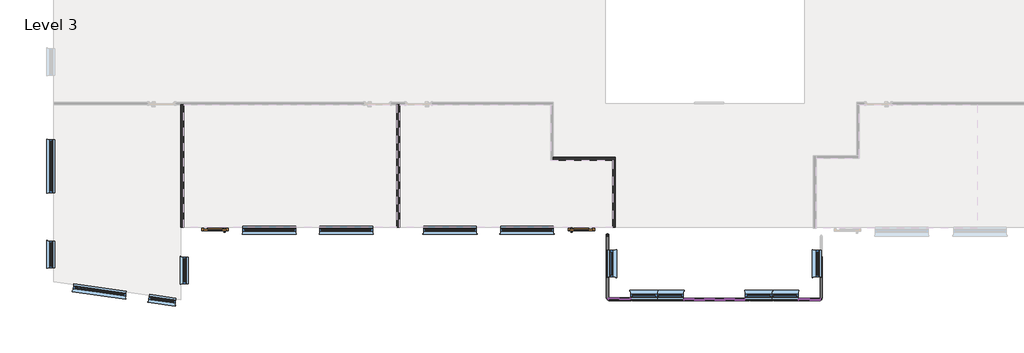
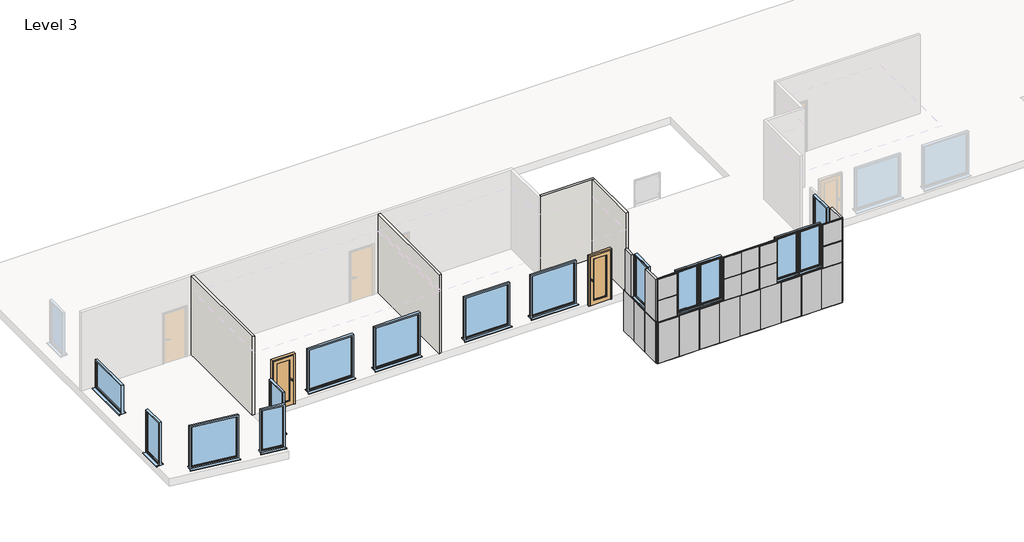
# One storey, part 1 of 7: 73 members, 27 plates, 15 windows, 4 walls, 2 doors.
"""IFC4 building model written with IfcOpenShell, lengths in millimetres."""

from ifc_helpers import new_model, si_unit, frame, origin, place, context, project, spatial, polyline, outline, extrude, faceted_brep, transform, mapped, element, save
from components import doors_extsgl_1_910x2110mm_628282a2, doors_extsgl_1_910x2110mm_947c59ca, rectangular_mullion_25x25mm_b2cedffe, rectangular_mullion_25x25mm_028a5a57, rectangular_mullion_25x25mm_46c97505, rectangular_mullion_25x25mm_a4c1269f, rectangular_mullion_25x25mm_003a9669, rectangular_mullion_25x25mm_920d8240, rectangular_mullion_25x25mm_6d395d07, rectangular_mullion_25x25mm_ba48c8dc, rectangular_mullion_25x25mm_5747d3e9, rectangular_mullion_25x25mm_b4b9a9ee, rectangular_mullion_25x25mm_675738ca, rectangular_mullion_25x25mm_1daffa3c, rectangular_mullion_25x25mm_6c57a8fc, rectangular_mullion_25x25mm_2d4ba261, rectangular_mullion_25x25mm_25b33903, rectangular_mullion_25x25mm_7f393c03, rectangular_mullion_25x25mm_c7fa3d61, rectangular_mullion_25x25mm_14c15364, rectangular_mullion_25x25mm_8c50469f, rectangular_mullion_25x25mm_822b7fe3, rectangular_mullion_25x25mm_ea8cc668, rectangular_mullion_25x25mm_576a80d7, curtain_panels_solid_solid_panel_green_c59e5148, curtain_panels_solid_solid_panel_green_b8c23153, curtain_panels_solid_solid_panel_green_16f00973, curtain_panels_solid_solid_panel_green_723635d2, curtain_panels_solid_solid_panel_green_db50b24e, curtain_panels_solid_solid_panel_green_6b347029, curtain_panels_solid_solid_panel_green_873f3444, curtain_panels_solid_solid_panel_green_c27fb083, curtain_panels_solid_solid_panel_green_d5b4ba83, curtain_panels_solid_solid_panel_green_fcc19b96, windows_sgl_plain_1810x1210mm_bf86ad2f, windows_sgl_plain_1810x1810mm_5434ce38, windows_sgl_plain_1810x1810mm_11d9b991, windows_sgl_plain_910x1810mm_bd75558e, windows_sgl_plain_910x1810mm_de3ea6c8, windows_sgl_plain_910x1810mm_eaa5caaf, windows_sgl_plain_910x1810mm_c05862ca

model = new_model("IFC4")

# Units and contexts
model_context = context("Model", 3, world=origin())
ifc_project = project(units=[si_unit("LENGTHUNIT", "METRE", prefix="MILLI")], contexts=[model_context])

# Site, building, storey
site = spatial("IfcSite", under=ifc_project)
building = spatial("IfcBuilding", under=site)
storey = spatial("IfcBuildingStorey", under=building, Name="Level 3", Elevation=11000.0)

# Doors
placement = place(None, origin())
doors_extsgl_1_910x2110mm_shape = doors_extsgl_1_910x2110mm_628282a2(model_context)
element("IfcDoor", 1, ObjectType="Doors_ExtSgl_1 : 910x2110mm", at=placement, inside=storey, context=model_context, shape_type="MappedRepresentation", body=[
    mapped(doors_extsgl_1_910x2110mm_shape, transform((4105.7942367, -3367.5053409, 11000.0), x_axis=(-1.0, 0.0, 0.0), y_axis=(0.0, -1.0, 0.0), z_axis=(0.0, 0.0, 1.0))),
])
doors_extsgl_1_910x2110mm_2_shape = doors_extsgl_1_910x2110mm_947c59ca(model_context)
element("IfcDoor", 2, ObjectType="Doors_ExtSgl_1 : 910x2110mm", at=placement, inside=storey, context=model_context, shape_type="MappedRepresentation", body=[
    mapped(doors_extsgl_1_910x2110mm_2_shape, transform((16660.7942367, -3367.5053409, 11000.0), x_axis=(1.0, 0.0, 0.0), y_axis=(0.0, 1.0, 0.0), z_axis=(0.0, 0.0, 1.0))),
])

# Members
rectangular_mullion_25x25mm_shape = rectangular_mullion_25x25mm_b2cedffe(model_context)
element("IfcMember", 3, ObjectType="Rectangular Mullion : 25x25mm", at=placement, inside=storey, context=model_context, shape_type="MappedRepresentation", body=[
    mapped(rectangular_mullion_25x25mm_shape, transform((24873.2942367, -4250.005341, 9585.0), x_axis=(0.0, -1.0, 0.0), y_axis=(-1.0, 0.0, 0.0), z_axis=(0.0, 0.0, -1.0))),
])
element("IfcMember", 4, ObjectType="Rectangular Mullion : 25x25mm", at=placement, inside=storey, context=model_context, shape_type="MappedRepresentation", body=[
    mapped(rectangular_mullion_25x25mm_shape, transform((24873.2942367, -4977.5053408, 9585.0), x_axis=(0.0, -1.0, 0.0), y_axis=(-1.0, 0.0, 0.0), z_axis=(0.0, 0.0, -1.0))),
])
element("IfcMember", 5, ObjectType="Rectangular Mullion : 25x25mm", at=placement, inside=storey, context=model_context, shape_type="MappedRepresentation", body=[
    mapped(rectangular_mullion_25x25mm_shape, transform((24052.4609031, -5717.5053409, 9585.0), x_axis=(-1.0, 0.0, 0.0), y_axis=(0.0, 1.0, 0.0), z_axis=(0.0, 0.0, -1.0))),
])
element("IfcMember", 6, ObjectType="Rectangular Mullion : 25x25mm", at=placement, inside=storey, context=model_context, shape_type="MappedRepresentation", body=[
    mapped(rectangular_mullion_25x25mm_shape, transform((23244.1275698, -5717.5053409, 9585.0), x_axis=(-1.0, 0.0, 0.0), y_axis=(0.0, 1.0, 0.0), z_axis=(0.0, 0.0, -1.0))),
])
element("IfcMember", 7, ObjectType="Rectangular Mullion : 25x25mm", at=placement, inside=storey, context=model_context, shape_type="MappedRepresentation", body=[
    mapped(rectangular_mullion_25x25mm_shape, transform((22435.7942366, -5717.5053409, 9585.0), x_axis=(-1.0, 0.0, 0.0), y_axis=(0.0, 1.0, 0.0), z_axis=(0.0, 0.0, -1.0))),
])
element("IfcMember", 8, ObjectType="Rectangular Mullion : 25x25mm", at=placement, inside=storey, context=model_context, shape_type="MappedRepresentation", body=[
    mapped(rectangular_mullion_25x25mm_shape, transform((21627.4609033, -5717.5053409, 9585.0), x_axis=(-1.0, 0.0, 0.0), y_axis=(0.0, 1.0, 0.0), z_axis=(0.0, 0.0, -1.0))),
])
element("IfcMember", 9, ObjectType="Rectangular Mullion : 25x25mm", at=placement, inside=storey, context=model_context, shape_type="MappedRepresentation", body=[
    mapped(rectangular_mullion_25x25mm_shape, transform((20819.12757, -5717.5053409, 9585.0), x_axis=(-1.0, 0.0, 0.0), y_axis=(0.0, 1.0, 0.0), z_axis=(0.0, 0.0, -1.0))),
])
element("IfcMember", 10, ObjectType="Rectangular Mullion : 25x25mm", at=placement, inside=storey, context=model_context, shape_type="MappedRepresentation", body=[
    mapped(rectangular_mullion_25x25mm_shape, transform((20010.7942368, -5717.5053409, 9585.0), x_axis=(-1.0, 0.0, 0.0), y_axis=(0.0, 1.0, 0.0), z_axis=(0.0, 0.0, -1.0))),
])
element("IfcMember", 11, ObjectType="Rectangular Mullion : 25x25mm", at=placement, inside=storey, context=model_context, shape_type="MappedRepresentation", body=[
    mapped(rectangular_mullion_25x25mm_shape, transform((19202.4609035, -5717.5053409, 9585.0), x_axis=(-1.0, 0.0, 0.0), y_axis=(0.0, 1.0, 0.0), z_axis=(0.0, 0.0, -1.0))),
])
element("IfcMember", 12, ObjectType="Rectangular Mullion : 25x25mm", at=placement, inside=storey, context=model_context, shape_type="MappedRepresentation", body=[
    mapped(rectangular_mullion_25x25mm_shape, transform((18394.1275702, -5717.5053409, 9585.0), x_axis=(-1.0, 0.0, 0.0), y_axis=(0.0, 1.0, 0.0), z_axis=(0.0, 0.0, -1.0))),
])
rectangular_mullion_25x25mm_2_shape = rectangular_mullion_25x25mm_028a5a57(model_context)
element("IfcMember", 13, ObjectType="Rectangular Mullion : 25x25mm", at=placement, inside=storey, context=model_context, shape_type="MappedRepresentation", body=[
    mapped(rectangular_mullion_25x25mm_2_shape, transform((24873.2942367, -5717.5053409, 9585.0), x_axis=(0.0, -1.0, 0.0), y_axis=(-1.0, 0.0, 0.0), z_axis=(0.0, 0.0, -1.0))),
])
element("IfcMember", 14, ObjectType="Rectangular Mullion : 25x25mm", at=placement, inside=storey, context=model_context, shape_type="MappedRepresentation", body=[
    mapped(rectangular_mullion_25x25mm_2_shape, transform((17573.2942367, -5717.5053409, 9585.0), x_axis=(-1.0, 0.0, 0.0), y_axis=(0.0, 1.0, 0.0), z_axis=(0.0, 0.0, -1.0))),
])
element("IfcMember", 15, ObjectType="Rectangular Mullion : 25x25mm", at=placement, inside=storey, context=model_context, shape_type="MappedRepresentation", body=[
    mapped(rectangular_mullion_25x25mm_2_shape, transform((24873.2942367, -5717.5053409, 11275.0), x_axis=(1.0, 0.0, 0.0), y_axis=(0.0, 1.0, 0.0), z_axis=(0.0, 0.0, 1.0))),
])
rectangular_mullion_25x25mm_3_shape = rectangular_mullion_25x25mm_46c97505(model_context)
element("IfcMember", 16, ObjectType="Rectangular Mullion : 25x25mm", at=placement, inside=storey, context=model_context, shape_type="MappedRepresentation", body=[
    mapped(rectangular_mullion_25x25mm_3_shape, transform((17573.2942367, -4210.005341, 9585.0), x_axis=(0.0, -1.0, 0.0), y_axis=(-1.0, 0.0, 0.0), z_axis=(0.0, 0.0, -1.0))),
])
element("IfcMember", 17, ObjectType="Rectangular Mullion : 25x25mm", at=placement, inside=storey, context=model_context, shape_type="MappedRepresentation", body=[
    mapped(rectangular_mullion_25x25mm_3_shape, transform((17573.2942367, -4957.5053408, 9585.0), x_axis=(0.0, -1.0, 0.0), y_axis=(-1.0, 0.0, 0.0), z_axis=(0.0, 0.0, -1.0))),
])
rectangular_mullion_25x25mm_4_shape = rectangular_mullion_25x25mm_a4c1269f(model_context)
element("IfcMember", 18, ObjectType="Rectangular Mullion : 25x25mm", at=placement, inside=storey, context=model_context, shape_type="MappedRepresentation", body=[
    mapped(rectangular_mullion_25x25mm_4_shape, transform((17573.2942367, -5717.5053409, 9585.0), x_axis=(0.0, -1.0, 0.0), y_axis=(-1.0, 0.0, 0.0), z_axis=(0.0, 0.0, -1.0))),
])
element("IfcMember", 19, ObjectType="Rectangular Mullion : 25x25mm", at=placement, inside=storey, context=model_context, shape_type="MappedRepresentation", body=[
    mapped(rectangular_mullion_25x25mm_4_shape, transform((17573.2942367, -3475.0053409, 11275.0), x_axis=(0.0, 1.0, 0.0), y_axis=(-1.0, 0.0, 0.0), z_axis=(0.0, 0.0, 1.0))),
])
rectangular_mullion_25x25mm_5_shape = rectangular_mullion_25x25mm_003a9669(model_context)
element("IfcMember", 20, ObjectType="Rectangular Mullion : 25x25mm", at=placement, inside=storey, context=model_context, shape_type="MappedRepresentation", body=[
    mapped(rectangular_mullion_25x25mm_5_shape, transform((17573.2942367, -4210.005341, 11300.0), x_axis=(0.0, 0.0, 1.0), y_axis=(-1.0, 0.0, 0.0), z_axis=(0.0, -1.0, 0.0))),
])
rectangular_mullion_25x25mm_6_shape = rectangular_mullion_25x25mm_920d8240(model_context)
element("IfcMember", 21, ObjectType="Rectangular Mullion : 25x25mm", at=placement, inside=storey, context=model_context, shape_type="MappedRepresentation", body=[
    mapped(rectangular_mullion_25x25mm_6_shape, transform((17573.2942367, -4957.5053408, 11300.0), x_axis=(0.0, 0.0, 1.0), y_axis=(-1.0, 0.0, 0.0), z_axis=(0.0, -1.0, 0.0))),
])
element("IfcMember", 22, ObjectType="Rectangular Mullion : 25x25mm", at=placement, inside=storey, context=model_context, shape_type="MappedRepresentation", body=[
    mapped(rectangular_mullion_25x25mm_5_shape, transform((17573.2942367, -3475.0053409, 9560.0), x_axis=(0.0, 0.0, -1.0), y_axis=(-1.0, 0.0, 0.0), z_axis=(0.0, 1.0, 0.0))),
])
element("IfcMember", 23, ObjectType="Rectangular Mullion : 25x25mm", at=placement, inside=storey, context=model_context, shape_type="MappedRepresentation", body=[
    mapped(rectangular_mullion_25x25mm_6_shape, transform((17573.2942367, -4210.005341, 9560.0), x_axis=(0.0, 0.0, -1.0), y_axis=(-1.0, 0.0, 0.0), z_axis=(0.0, 1.0, 0.0))),
])
rectangular_mullion_25x25mm_7_shape = rectangular_mullion_25x25mm_6d395d07(model_context)
element("IfcMember", 24, ObjectType="Rectangular Mullion : 25x25mm", at=placement, inside=storey, context=model_context, shape_type="MappedRepresentation", body=[
    mapped(rectangular_mullion_25x25mm_7_shape, transform((20173.2942367, -5717.5053409, 13110.0), x_axis=(0.0, 0.0, 1.0), y_axis=(0.0, 1.0, 0.0), z_axis=(-1.0, 0.0, 0.0))),
])
element("IfcMember", 25, ObjectType="Rectangular Mullion : 25x25mm", at=placement, inside=storey, context=model_context, shape_type="MappedRepresentation", body=[
    mapped(rectangular_mullion_25x25mm_7_shape, transform((22288.2942367, -5717.5053409, 11275.0), x_axis=(0.0, 0.0, -1.0), y_axis=(0.0, 1.0, 0.0), z_axis=(1.0, 0.0, 0.0))),
])
element("IfcMember", 26, ObjectType="Rectangular Mullion : 25x25mm", at=placement, inside=storey, context=model_context, shape_type="MappedRepresentation", body=[
    mapped(rectangular_mullion_25x25mm_7_shape, transform((21579.1275699, -5717.5053409, 13110.0), x_axis=(0.0, 0.0, 1.0), y_axis=(0.0, 1.0, 0.0), z_axis=(-1.0, 0.0, 0.0))),
])
rectangular_mullion_25x25mm_8_shape = rectangular_mullion_25x25mm_ba48c8dc(model_context)
element("IfcMember", 27, ObjectType="Rectangular Mullion : 25x25mm", at=placement, inside=storey, context=model_context, shape_type="MappedRepresentation", body=[
    mapped(rectangular_mullion_25x25mm_8_shape, transform((20882.4609034, -5717.5053409, 13110.0), x_axis=(0.0, 0.0, 1.0), y_axis=(0.0, 1.0, 0.0), z_axis=(-1.0, 0.0, 0.0))),
])
element("IfcMember", 28, ObjectType="Rectangular Mullion : 25x25mm", at=placement, inside=storey, context=model_context, shape_type="MappedRepresentation", body=[
    mapped(rectangular_mullion_25x25mm_8_shape, transform((21579.1275699, -5717.5053409, 11275.0), x_axis=(0.0, 0.0, -1.0), y_axis=(0.0, 1.0, 0.0), z_axis=(1.0, 0.0, 0.0))),
])
element("IfcMember", 29, ObjectType="Rectangular Mullion : 25x25mm", at=placement, inside=storey, context=model_context, shape_type="MappedRepresentation", body=[
    mapped(rectangular_mullion_25x25mm_7_shape, transform((20882.4609034, -5717.5053409, 11275.0), x_axis=(0.0, 0.0, -1.0), y_axis=(0.0, 1.0, 0.0), z_axis=(1.0, 0.0, 0.0))),
])
rectangular_mullion_25x25mm_9_shape = rectangular_mullion_25x25mm_5747d3e9(model_context)
element("IfcMember", 30, ObjectType="Rectangular Mullion : 25x25mm", at=placement, inside=storey, context=model_context, shape_type="MappedRepresentation", body=[
    mapped(rectangular_mullion_25x25mm_9_shape, transform((21579.1275699, -5717.5053409, 11300.0), x_axis=(-1.0, 0.0, 0.0), y_axis=(0.0, 1.0, 0.0), z_axis=(0.0, 0.0, -1.0))),
])
element("IfcMember", 31, ObjectType="Rectangular Mullion : 25x25mm", at=placement, inside=storey, context=model_context, shape_type="MappedRepresentation", body=[
    mapped(rectangular_mullion_25x25mm_9_shape, transform((20882.4609034, -5717.5053409, 11300.0), x_axis=(-1.0, 0.0, 0.0), y_axis=(0.0, 1.0, 0.0), z_axis=(0.0, 0.0, -1.0))),
])
element("IfcMember", 32, ObjectType="Rectangular Mullion : 25x25mm", at=placement, inside=storey, context=model_context, shape_type="MappedRepresentation", body=[
    mapped(rectangular_mullion_25x25mm_9_shape, transform((21579.1275699, -5717.5053409, 12192.5), x_axis=(-1.0, 0.0, 0.0), y_axis=(0.0, 1.0, 0.0), z_axis=(0.0, 0.0, -1.0))),
])
element("IfcMember", 33, ObjectType="Rectangular Mullion : 25x25mm", at=placement, inside=storey, context=model_context, shape_type="MappedRepresentation", body=[
    mapped(rectangular_mullion_25x25mm_9_shape, transform((20882.4609034, -5717.5053409, 12192.5), x_axis=(-1.0, 0.0, 0.0), y_axis=(0.0, 1.0, 0.0), z_axis=(0.0, 0.0, -1.0))),
])
rectangular_mullion_25x25mm_10_shape = rectangular_mullion_25x25mm_b4b9a9ee(model_context)
element("IfcMember", 34, ObjectType="Rectangular Mullion : 25x25mm", at=placement, inside=storey, context=model_context, shape_type="MappedRepresentation", body=[
    mapped(rectangular_mullion_25x25mm_10_shape, transform((21591.6275699, -5717.5053409, 12192.5), x_axis=(0.0, 0.0, 1.0), y_axis=(0.0, 1.0, 0.0), z_axis=(-1.0, 0.0, 0.0))),
])
element("IfcMember", 35, ObjectType="Rectangular Mullion : 25x25mm", at=placement, inside=storey, context=model_context, shape_type="MappedRepresentation", body=[
    mapped(rectangular_mullion_25x25mm_10_shape, transform((20894.9609034, -5717.5053409, 12192.5), x_axis=(0.0, 0.0, 1.0), y_axis=(0.0, 1.0, 0.0), z_axis=(-1.0, 0.0, 0.0))),
])
element("IfcMember", 36, ObjectType="Rectangular Mullion : 25x25mm", at=placement, inside=storey, context=model_context, shape_type="MappedRepresentation", body=[
    mapped(rectangular_mullion_25x25mm_10_shape, transform((20198.2942367, -5717.5053409, 12192.5), x_axis=(0.0, 0.0, 1.0), y_axis=(0.0, 1.0, 0.0), z_axis=(-1.0, 0.0, 0.0))),
])
rectangular_mullion_25x25mm_11_shape = rectangular_mullion_25x25mm_675738ca(model_context)
element("IfcMember", 37, ObjectType="Rectangular Mullion : 25x25mm", at=placement, inside=storey, context=model_context, shape_type="MappedRepresentation", body=[
    mapped(rectangular_mullion_25x25mm_11_shape, transform((20173.2942367, -5717.5053409, 11300.0), x_axis=(-1.0, 0.0, 0.0), y_axis=(0.0, 1.0, 0.0), z_axis=(0.0, 0.0, -1.0))),
])
element("IfcMember", 38, ObjectType="Rectangular Mullion : 25x25mm", at=placement, inside=storey, context=model_context, shape_type="MappedRepresentation", body=[
    mapped(rectangular_mullion_25x25mm_11_shape, transform((24098.2942367, -5717.5053409, 11300.0), x_axis=(-1.0, 0.0, 0.0), y_axis=(0.0, 1.0, 0.0), z_axis=(0.0, 0.0, -1.0))),
])
element("IfcMember", 39, ObjectType="Rectangular Mullion : 25x25mm", at=placement, inside=storey, context=model_context, shape_type="MappedRepresentation", body=[
    mapped(rectangular_mullion_25x25mm_11_shape, transform((22288.2942367, -5717.5053409, 13085.0), x_axis=(1.0, 0.0, 0.0), y_axis=(0.0, 1.0, 0.0), z_axis=(0.0, 0.0, 1.0))),
])
element("IfcMember", 40, ObjectType="Rectangular Mullion : 25x25mm", at=placement, inside=storey, context=model_context, shape_type="MappedRepresentation", body=[
    mapped(rectangular_mullion_25x25mm_11_shape, transform((24873.2942367, -5717.5053409, 13085.0), x_axis=(1.0, 0.0, 0.0), y_axis=(0.0, 1.0, 0.0), z_axis=(0.0, 0.0, 1.0))),
])
element("IfcMember", 41, ObjectType="Rectangular Mullion : 25x25mm", at=placement, inside=storey, context=model_context, shape_type="MappedRepresentation", body=[
    mapped(rectangular_mullion_25x25mm_11_shape, transform((20173.2942367, -5717.5053409, 12192.5), x_axis=(-1.0, 0.0, 0.0), y_axis=(0.0, 1.0, 0.0), z_axis=(0.0, 0.0, -1.0))),
])
element("IfcMember", 42, ObjectType="Rectangular Mullion : 25x25mm", at=placement, inside=storey, context=model_context, shape_type="MappedRepresentation", body=[
    mapped(rectangular_mullion_25x25mm_11_shape, transform((24098.2942367, -5717.5053409, 12192.5), x_axis=(-1.0, 0.0, 0.0), y_axis=(0.0, 1.0, 0.0), z_axis=(0.0, 0.0, -1.0))),
])
element("IfcMember", 43, ObjectType="Rectangular Mullion : 25x25mm", at=placement, inside=storey, context=model_context, shape_type="MappedRepresentation", body=[
    mapped(rectangular_mullion_25x25mm_11_shape, transform((22288.2942367, -5717.5053409, 12192.5), x_axis=(1.0, 0.0, 0.0), y_axis=(0.0, 1.0, 0.0), z_axis=(0.0, 0.0, 1.0))),
])
element("IfcMember", 44, ObjectType="Rectangular Mullion : 25x25mm", at=placement, inside=storey, context=model_context, shape_type="MappedRepresentation", body=[
    mapped(rectangular_mullion_25x25mm_11_shape, transform((24873.2942367, -5717.5053409, 12192.5), x_axis=(1.0, 0.0, 0.0), y_axis=(0.0, 1.0, 0.0), z_axis=(0.0, 0.0, 1.0))),
])
rectangular_mullion_25x25mm_12_shape = rectangular_mullion_25x25mm_1daffa3c(model_context)
element("IfcMember", 45, ObjectType="Rectangular Mullion : 25x25mm", at=placement, inside=storey, context=model_context, shape_type="MappedRepresentation", body=[
    mapped(rectangular_mullion_25x25mm_12_shape, transform((17573.2942367, -5717.5053409, 13110.0), x_axis=(0.0, 0.0, 1.0), y_axis=(0.0, 1.0, 0.0), z_axis=(-1.0, 0.0, 0.0))),
])
element("IfcMember", 46, ObjectType="Rectangular Mullion : 25x25mm", at=placement, inside=storey, context=model_context, shape_type="MappedRepresentation", body=[
    mapped(rectangular_mullion_25x25mm_12_shape, transform((18348.2942367, -5717.5053409, 11275.0), x_axis=(0.0, 0.0, -1.0), y_axis=(0.0, 1.0, 0.0), z_axis=(1.0, 0.0, 0.0))),
])
rectangular_mullion_25x25mm_13_shape = rectangular_mullion_25x25mm_6c57a8fc(model_context)
element("IfcMember", 47, ObjectType="Rectangular Mullion : 25x25mm", at=placement, inside=storey, context=model_context, shape_type="MappedRepresentation", body=[
    mapped(rectangular_mullion_25x25mm_13_shape, transform((17598.2942367, -5717.5053409, 12192.5), x_axis=(0.0, 0.0, 1.0), y_axis=(0.0, 1.0, 0.0), z_axis=(-1.0, 0.0, 0.0))),
])
rectangular_mullion_25x25mm_14_shape = rectangular_mullion_25x25mm_2d4ba261(model_context)
element("IfcMember", 48, ObjectType="Rectangular Mullion : 25x25mm", at=placement, inside=storey, context=model_context, shape_type="MappedRepresentation", body=[
    mapped(rectangular_mullion_25x25mm_14_shape, transform((17573.2942367, -5717.5053409, 11300.0), x_axis=(-1.0, 0.0, 0.0), y_axis=(0.0, 1.0, 0.0), z_axis=(0.0, 0.0, -1.0))),
])
element("IfcMember", 49, ObjectType="Rectangular Mullion : 25x25mm", at=placement, inside=storey, context=model_context, shape_type="MappedRepresentation", body=[
    mapped(rectangular_mullion_25x25mm_14_shape, transform((18348.2942367, -5717.5053409, 13085.0), x_axis=(1.0, 0.0, 0.0), y_axis=(0.0, 1.0, 0.0), z_axis=(0.0, 0.0, 1.0))),
])
element("IfcMember", 50, ObjectType="Rectangular Mullion : 25x25mm", at=placement, inside=storey, context=model_context, shape_type="MappedRepresentation", body=[
    mapped(rectangular_mullion_25x25mm_14_shape, transform((17573.2942367, -5717.5053409, 12192.5), x_axis=(-1.0, 0.0, 0.0), y_axis=(0.0, 1.0, 0.0), z_axis=(0.0, 0.0, -1.0))),
])
element("IfcMember", 51, ObjectType="Rectangular Mullion : 25x25mm", at=placement, inside=storey, context=model_context, shape_type="MappedRepresentation", body=[
    mapped(rectangular_mullion_25x25mm_14_shape, transform((18348.2942367, -5717.5053409, 12192.5), x_axis=(1.0, 0.0, 0.0), y_axis=(0.0, 1.0, 0.0), z_axis=(0.0, 0.0, 1.0))),
])
rectangular_mullion_25x25mm_15_shape = rectangular_mullion_25x25mm_25b33903(model_context)
element("IfcMember", 52, ObjectType="Rectangular Mullion : 25x25mm", at=placement, inside=storey, context=model_context, shape_type="MappedRepresentation", body=[
    mapped(rectangular_mullion_25x25mm_15_shape, transform((24098.2942367, -5717.5053409, 13110.0), x_axis=(0.0, 0.0, 1.0), y_axis=(0.0, 1.0, 0.0), z_axis=(-1.0, 0.0, 0.0))),
])
element("IfcMember", 53, ObjectType="Rectangular Mullion : 25x25mm", at=placement, inside=storey, context=model_context, shape_type="MappedRepresentation", body=[
    mapped(rectangular_mullion_25x25mm_15_shape, transform((24873.2942367, -5717.5053409, 11275.0), x_axis=(0.0, 0.0, -1.0), y_axis=(0.0, 1.0, 0.0), z_axis=(1.0, 0.0, 0.0))),
])
rectangular_mullion_25x25mm_16_shape = rectangular_mullion_25x25mm_7f393c03(model_context)
element("IfcMember", 54, ObjectType="Rectangular Mullion : 25x25mm", at=placement, inside=storey, context=model_context, shape_type="MappedRepresentation", body=[
    mapped(rectangular_mullion_25x25mm_16_shape, transform((24123.2942367, -5717.5053409, 12192.5), x_axis=(0.0, 0.0, 1.0), y_axis=(0.0, 1.0, 0.0), z_axis=(-1.0, 0.0, 0.0))),
])
rectangular_mullion_25x25mm_17_shape = rectangular_mullion_25x25mm_c7fa3d61(model_context)
element("IfcMember", 55, ObjectType="Rectangular Mullion : 25x25mm", at=placement, inside=storey, context=model_context, shape_type="MappedRepresentation", body=[
    mapped(rectangular_mullion_25x25mm_17_shape, transform((24873.2942367, -5717.5053409, 11300.0), x_axis=(0.0, 0.0, 1.0), y_axis=(-1.0, 0.0, 0.0), z_axis=(0.0, -1.0, 0.0))),
])
rectangular_mullion_25x25mm_18_shape = rectangular_mullion_25x25mm_14c15364(model_context)
element("IfcMember", 56, ObjectType="Rectangular Mullion : 25x25mm", at=placement, inside=storey, context=model_context, shape_type="MappedRepresentation", body=[
    mapped(rectangular_mullion_25x25mm_18_shape, transform((24052.4609031, -5717.5053409, 11300.0), x_axis=(0.0, 0.0, 1.0), y_axis=(0.0, 1.0, 0.0), z_axis=(-1.0, 0.0, 0.0))),
])
rectangular_mullion_25x25mm_19_shape = rectangular_mullion_25x25mm_8c50469f(model_context)
element("IfcMember", 57, ObjectType="Rectangular Mullion : 25x25mm", at=placement, inside=storey, context=model_context, shape_type="MappedRepresentation", body=[
    mapped(rectangular_mullion_25x25mm_19_shape, transform((23244.1275698, -5717.5053409, 11300.0), x_axis=(0.0, 0.0, 1.0), y_axis=(0.0, 1.0, 0.0), z_axis=(-1.0, 0.0, 0.0))),
])
element("IfcMember", 58, ObjectType="Rectangular Mullion : 25x25mm", at=placement, inside=storey, context=model_context, shape_type="MappedRepresentation", body=[
    mapped(rectangular_mullion_25x25mm_19_shape, transform((22435.7942366, -5717.5053409, 11300.0), x_axis=(0.0, 0.0, 1.0), y_axis=(0.0, 1.0, 0.0), z_axis=(-1.0, 0.0, 0.0))),
])
element("IfcMember", 59, ObjectType="Rectangular Mullion : 25x25mm", at=placement, inside=storey, context=model_context, shape_type="MappedRepresentation", body=[
    mapped(rectangular_mullion_25x25mm_19_shape, transform((21627.4609033, -5717.5053409, 11300.0), x_axis=(0.0, 0.0, 1.0), y_axis=(0.0, 1.0, 0.0), z_axis=(-1.0, 0.0, 0.0))),
])
element("IfcMember", 60, ObjectType="Rectangular Mullion : 25x25mm", at=placement, inside=storey, context=model_context, shape_type="MappedRepresentation", body=[
    mapped(rectangular_mullion_25x25mm_19_shape, transform((20819.12757, -5717.5053409, 11300.0), x_axis=(0.0, 0.0, 1.0), y_axis=(0.0, 1.0, 0.0), z_axis=(-1.0, 0.0, 0.0))),
])
element("IfcMember", 61, ObjectType="Rectangular Mullion : 25x25mm", at=placement, inside=storey, context=model_context, shape_type="MappedRepresentation", body=[
    mapped(rectangular_mullion_25x25mm_19_shape, transform((20010.7942368, -5717.5053409, 11300.0), x_axis=(0.0, 0.0, 1.0), y_axis=(0.0, 1.0, 0.0), z_axis=(-1.0, 0.0, 0.0))),
])
element("IfcMember", 62, ObjectType="Rectangular Mullion : 25x25mm", at=placement, inside=storey, context=model_context, shape_type="MappedRepresentation", body=[
    mapped(rectangular_mullion_25x25mm_19_shape, transform((19202.4609035, -5717.5053409, 11300.0), x_axis=(0.0, 0.0, 1.0), y_axis=(0.0, 1.0, 0.0), z_axis=(-1.0, 0.0, 0.0))),
])
element("IfcMember", 63, ObjectType="Rectangular Mullion : 25x25mm", at=placement, inside=storey, context=model_context, shape_type="MappedRepresentation", body=[
    mapped(rectangular_mullion_25x25mm_19_shape, transform((18394.1275702, -5717.5053409, 11300.0), x_axis=(0.0, 0.0, 1.0), y_axis=(0.0, 1.0, 0.0), z_axis=(-1.0, 0.0, 0.0))),
])
element("IfcMember", 64, ObjectType="Rectangular Mullion : 25x25mm", at=placement, inside=storey, context=model_context, shape_type="MappedRepresentation", body=[
    mapped(rectangular_mullion_25x25mm_19_shape, transform((24052.4609031, -5717.5053409, 9560.0), x_axis=(0.0, 0.0, -1.0), y_axis=(0.0, 1.0, 0.0), z_axis=(1.0, 0.0, 0.0))),
])
element("IfcMember", 65, ObjectType="Rectangular Mullion : 25x25mm", at=placement, inside=storey, context=model_context, shape_type="MappedRepresentation", body=[
    mapped(rectangular_mullion_25x25mm_19_shape, transform((23244.1275698, -5717.5053409, 9560.0), x_axis=(0.0, 0.0, -1.0), y_axis=(0.0, 1.0, 0.0), z_axis=(1.0, 0.0, 0.0))),
])
element("IfcMember", 66, ObjectType="Rectangular Mullion : 25x25mm", at=placement, inside=storey, context=model_context, shape_type="MappedRepresentation", body=[
    mapped(rectangular_mullion_25x25mm_19_shape, transform((22435.7942366, -5717.5053409, 9560.0), x_axis=(0.0, 0.0, -1.0), y_axis=(0.0, 1.0, 0.0), z_axis=(1.0, 0.0, 0.0))),
])
element("IfcMember", 67, ObjectType="Rectangular Mullion : 25x25mm", at=placement, inside=storey, context=model_context, shape_type="MappedRepresentation", body=[
    mapped(rectangular_mullion_25x25mm_19_shape, transform((21627.4609033, -5717.5053409, 9560.0), x_axis=(0.0, 0.0, -1.0), y_axis=(0.0, 1.0, 0.0), z_axis=(1.0, 0.0, 0.0))),
])
element("IfcMember", 68, ObjectType="Rectangular Mullion : 25x25mm", at=placement, inside=storey, context=model_context, shape_type="MappedRepresentation", body=[
    mapped(rectangular_mullion_25x25mm_19_shape, transform((20819.12757, -5717.5053409, 9560.0), x_axis=(0.0, 0.0, -1.0), y_axis=(0.0, 1.0, 0.0), z_axis=(1.0, 0.0, 0.0))),
])
element("IfcMember", 69, ObjectType="Rectangular Mullion : 25x25mm", at=placement, inside=storey, context=model_context, shape_type="MappedRepresentation", body=[
    mapped(rectangular_mullion_25x25mm_19_shape, transform((20010.7942368, -5717.5053409, 9560.0), x_axis=(0.0, 0.0, -1.0), y_axis=(0.0, 1.0, 0.0), z_axis=(1.0, 0.0, 0.0))),
])
element("IfcMember", 70, ObjectType="Rectangular Mullion : 25x25mm", at=placement, inside=storey, context=model_context, shape_type="MappedRepresentation", body=[
    mapped(rectangular_mullion_25x25mm_19_shape, transform((19202.4609035, -5717.5053409, 9560.0), x_axis=(0.0, 0.0, -1.0), y_axis=(0.0, 1.0, 0.0), z_axis=(1.0, 0.0, 0.0))),
])
rectangular_mullion_25x25mm_20_shape = rectangular_mullion_25x25mm_822b7fe3(model_context)
element("IfcMember", 71, ObjectType="Rectangular Mullion : 25x25mm", at=placement, inside=storey, context=model_context, shape_type="MappedRepresentation", body=[
    mapped(rectangular_mullion_25x25mm_20_shape, transform((17573.2942367, -5717.5053409, 11300.0), x_axis=(0.0, 0.0, 1.0), y_axis=(-1.0, 0.0, 0.0), z_axis=(0.0, -1.0, 0.0))),
])
rectangular_mullion_25x25mm_21_shape = rectangular_mullion_25x25mm_ea8cc668(model_context)
element("IfcMember", 72, ObjectType="Rectangular Mullion : 25x25mm", at=placement, inside=storey, context=model_context, shape_type="MappedRepresentation", body=[
    mapped(rectangular_mullion_25x25mm_21_shape, transform((17573.2942367, -5717.5053409, 11300.0), x_axis=(0.0, 0.0, 1.0), y_axis=(0.0, 1.0, 0.0), z_axis=(-1.0, 0.0, 0.0))),
])
element("IfcMember", 73, ObjectType="Rectangular Mullion : 25x25mm", at=placement, inside=storey, context=model_context, shape_type="MappedRepresentation", body=[
    mapped(rectangular_mullion_25x25mm_21_shape, transform((24873.2942367, -5717.5053409, 9560.0), x_axis=(0.0, 0.0, -1.0), y_axis=(0.0, 1.0, 0.0), z_axis=(1.0, 0.0, 0.0))),
])
element("IfcMember", 74, ObjectType="Rectangular Mullion : 25x25mm", at=placement, inside=storey, context=model_context, shape_type="MappedRepresentation", body=[
    mapped(rectangular_mullion_25x25mm_18_shape, transform((18394.1275702, -5717.5053409, 9560.0), x_axis=(0.0, 0.0, -1.0), y_axis=(0.0, 1.0, 0.0), z_axis=(1.0, 0.0, 0.0))),
])
rectangular_mullion_25x25mm_22_shape = rectangular_mullion_25x25mm_576a80d7(model_context)
element("IfcMember", 75, ObjectType="Rectangular Mullion : 25x25mm", at=placement, inside=storey, context=model_context, shape_type="MappedRepresentation", body=[
    mapped(rectangular_mullion_25x25mm_22_shape, transform((17573.2942367, -4957.5053408, 9560.0), x_axis=(0.0, 0.0, -1.0), y_axis=(-1.0, 0.0, 0.0), z_axis=(0.0, 1.0, 0.0))),
])

# Plates
curtain_panels_solid_solid_panel_green_shape = curtain_panels_solid_solid_panel_green_c59e5148(model_context)
element("IfcPlate", 76, ObjectType="Curtain_Panels_Solid : Solid_Panel_Green", at=placement, inside=storey, context=model_context, shape_type="MappedRepresentation", body=[
    mapped(curtain_panels_solid_solid_panel_green_shape, transform((24873.2942367, -4613.7553409, 9585.0), x_axis=(0.0, -1.0, 0.0), y_axis=(1.0, 0.0, 0.0), z_axis=(0.0, 0.0, 1.0))),
])
element("IfcPlate", 77, ObjectType="Curtain_Panels_Solid : Solid_Panel_Green", at=placement, inside=storey, context=model_context, shape_type="MappedRepresentation", body=[
    mapped(curtain_panels_solid_solid_panel_green_shape, transform((24873.2942367, -5341.2553408, 9585.0), x_axis=(0.0, -1.0, 0.0), y_axis=(1.0, 0.0, 0.0), z_axis=(0.0, 0.0, 1.0))),
])
curtain_panels_solid_solid_panel_green_2_shape = curtain_panels_solid_solid_panel_green_b8c23153(model_context)
element("IfcPlate", 78, ObjectType="Curtain_Panels_Solid : Solid_Panel_Green", at=placement, inside=storey, context=model_context, shape_type="MappedRepresentation", body=[
    mapped(curtain_panels_solid_solid_panel_green_2_shape, transform((24873.2942367, -5337.5053409, 11325.0), x_axis=(0.0, -1.0, 0.0), y_axis=(1.0, 0.0, 0.0), z_axis=(0.0, 0.0, 1.0))),
])
curtain_panels_solid_solid_panel_green_3_shape = curtain_panels_solid_solid_panel_green_16f00973(model_context)
element("IfcPlate", 79, ObjectType="Curtain_Panels_Solid : Solid_Panel_Green", at=placement, inside=storey, context=model_context, shape_type="MappedRepresentation", body=[
    mapped(curtain_panels_solid_solid_panel_green_3_shape, transform((17573.2942367, -5337.5053409, 11325.0), x_axis=(0.0, -1.0, 0.0), y_axis=(1.0, 0.0, 0.0), z_axis=(0.0, 0.0, 1.0))),
])
curtain_panels_solid_solid_panel_green_4_shape = curtain_panels_solid_solid_panel_green_723635d2(model_context)
element("IfcPlate", 80, ObjectType="Curtain_Panels_Solid : Solid_Panel_Green", at=placement, inside=storey, context=model_context, shape_type="MappedRepresentation", body=[
    mapped(curtain_panels_solid_solid_panel_green_4_shape, transform((17573.2942367, -3803.1303409, 11325.0), x_axis=(0.0, -1.0, 0.0), y_axis=(1.0, 0.0, 0.0), z_axis=(0.0, 0.0, 1.0))),
])
curtain_panels_solid_solid_panel_green_5_shape = curtain_panels_solid_solid_panel_green_db50b24e(model_context)
element("IfcPlate", 81, ObjectType="Curtain_Panels_Solid : Solid_Panel_Green", at=placement, inside=storey, context=model_context, shape_type="MappedRepresentation", body=[
    mapped(curtain_panels_solid_solid_panel_green_5_shape, transform((17573.2942367, -3848.7553409, 9585.0), x_axis=(0.0, -1.0, 0.0), y_axis=(1.0, 0.0, 0.0), z_axis=(0.0, 0.0, 1.0))),
])
curtain_panels_solid_solid_panel_green_6_shape = curtain_panels_solid_solid_panel_green_6b347029(model_context)
element("IfcPlate", 82, ObjectType="Curtain_Panels_Solid : Solid_Panel_Green", at=placement, inside=storey, context=model_context, shape_type="MappedRepresentation", body=[
    mapped(curtain_panels_solid_solid_panel_green_6_shape, transform((17573.2942367, -4583.7553409, 9585.0), x_axis=(0.0, -1.0, 0.0), y_axis=(1.0, 0.0, 0.0), z_axis=(0.0, 0.0, 1.0))),
])
element("IfcPlate", 83, ObjectType="Curtain_Panels_Solid : Solid_Panel_Green", at=placement, inside=storey, context=model_context, shape_type="MappedRepresentation", body=[
    mapped(curtain_panels_solid_solid_panel_green_6_shape, transform((17573.2942367, -5331.2553408, 9585.0), x_axis=(0.0, -1.0, 0.0), y_axis=(1.0, 0.0, 0.0), z_axis=(0.0, 0.0, 1.0))),
])
curtain_panels_solid_solid_panel_green_7_shape = curtain_panels_solid_solid_panel_green_873f3444(model_context)
element("IfcPlate", 84, ObjectType="Curtain_Panels_Solid : Solid_Panel_Green", at=placement, inside=storey, context=model_context, shape_type="MappedRepresentation", body=[
    mapped(curtain_panels_solid_solid_panel_green_7_shape, transform((21927.4609033, -5717.5053409, 11300.0), x_axis=(-1.0, 0.0, 0.0), y_axis=(0.0, -1.0, 0.0), z_axis=(0.0, 0.0, 1.0))),
])
element("IfcPlate", 85, ObjectType="Curtain_Panels_Solid : Solid_Panel_Green", at=placement, inside=storey, context=model_context, shape_type="MappedRepresentation", body=[
    mapped(curtain_panels_solid_solid_panel_green_7_shape, transform((21230.7942367, -5717.5053409, 11300.0), x_axis=(-1.0, 0.0, 0.0), y_axis=(0.0, -1.0, 0.0), z_axis=(0.0, 0.0, 1.0))),
])
element("IfcPlate", 86, ObjectType="Curtain_Panels_Solid : Solid_Panel_Green", at=placement, inside=storey, context=model_context, shape_type="MappedRepresentation", body=[
    mapped(curtain_panels_solid_solid_panel_green_7_shape, transform((20534.1275701, -5717.5053409, 11300.0), x_axis=(-1.0, 0.0, 0.0), y_axis=(0.0, -1.0, 0.0), z_axis=(0.0, 0.0, 1.0))),
])
element("IfcPlate", 87, ObjectType="Curtain_Panels_Solid : Solid_Panel_Green", at=placement, inside=storey, context=model_context, shape_type="MappedRepresentation", body=[
    mapped(curtain_panels_solid_solid_panel_green_7_shape, transform((21927.4609033, -5717.5053409, 12205.0), x_axis=(-1.0, 0.0, 0.0), y_axis=(0.0, -1.0, 0.0), z_axis=(0.0, 0.0, 1.0))),
])
element("IfcPlate", 88, ObjectType="Curtain_Panels_Solid : Solid_Panel_Green", at=placement, inside=storey, context=model_context, shape_type="MappedRepresentation", body=[
    mapped(curtain_panels_solid_solid_panel_green_7_shape, transform((21230.7942367, -5717.5053409, 12205.0), x_axis=(-1.0, 0.0, 0.0), y_axis=(0.0, -1.0, 0.0), z_axis=(0.0, 0.0, 1.0))),
])
element("IfcPlate", 89, ObjectType="Curtain_Panels_Solid : Solid_Panel_Green", at=placement, inside=storey, context=model_context, shape_type="MappedRepresentation", body=[
    mapped(curtain_panels_solid_solid_panel_green_7_shape, transform((20534.1275701, -5717.5053409, 12205.0), x_axis=(-1.0, 0.0, 0.0), y_axis=(0.0, -1.0, 0.0), z_axis=(0.0, 0.0, 1.0))),
])
curtain_panels_solid_solid_panel_green_8_shape = curtain_panels_solid_solid_panel_green_c27fb083(model_context)
element("IfcPlate", 90, ObjectType="Curtain_Panels_Solid : Solid_Panel_Green", at=placement, inside=storey, context=model_context, shape_type="MappedRepresentation", body=[
    mapped(curtain_panels_solid_solid_panel_green_8_shape, transform((17960.7942367, -5717.5053409, 11300.0), x_axis=(-1.0, 0.0, 0.0), y_axis=(0.0, -1.0, 0.0), z_axis=(0.0, 0.0, 1.0))),
])
element("IfcPlate", 91, ObjectType="Curtain_Panels_Solid : Solid_Panel_Green", at=placement, inside=storey, context=model_context, shape_type="MappedRepresentation", body=[
    mapped(curtain_panels_solid_solid_panel_green_8_shape, transform((17960.7942367, -5717.5053409, 12205.0), x_axis=(-1.0, 0.0, 0.0), y_axis=(0.0, -1.0, 0.0), z_axis=(0.0, 0.0, 1.0))),
])
curtain_panels_solid_solid_panel_green_9_shape = curtain_panels_solid_solid_panel_green_d5b4ba83(model_context)
element("IfcPlate", 92, ObjectType="Curtain_Panels_Solid : Solid_Panel_Green", at=placement, inside=storey, context=model_context, shape_type="MappedRepresentation", body=[
    mapped(curtain_panels_solid_solid_panel_green_9_shape, transform((24485.7942367, -5717.5053409, 11300.0), x_axis=(-1.0, 0.0, 0.0), y_axis=(0.0, -1.0, 0.0), z_axis=(0.0, 0.0, 1.0))),
])
element("IfcPlate", 93, ObjectType="Curtain_Panels_Solid : Solid_Panel_Green", at=placement, inside=storey, context=model_context, shape_type="MappedRepresentation", body=[
    mapped(curtain_panels_solid_solid_panel_green_9_shape, transform((24485.7942367, -5717.5053409, 12205.0), x_axis=(-1.0, 0.0, 0.0), y_axis=(0.0, -1.0, 0.0), z_axis=(0.0, 0.0, 1.0))),
])
curtain_panels_solid_solid_panel_green_10_shape = curtain_panels_solid_solid_panel_green_fcc19b96(model_context)
element("IfcPlate", 94, ObjectType="Curtain_Panels_Solid : Solid_Panel_Green", at=placement, inside=storey, context=model_context, shape_type="MappedRepresentation", body=[
    mapped(curtain_panels_solid_solid_panel_green_10_shape, transform((24456.6275699, -5717.5053409, 9585.0), x_axis=(-1.0, 0.0, 0.0), y_axis=(0.0, -1.0, 0.0), z_axis=(0.0, 0.0, 1.0))),
])
element("IfcPlate", 95, ObjectType="Curtain_Panels_Solid : Solid_Panel_Green", at=placement, inside=storey, context=model_context, shape_type="MappedRepresentation", body=[
    mapped(curtain_panels_solid_solid_panel_green_10_shape, transform((23648.2942365, -5717.5053409, 9585.0), x_axis=(-1.0, 0.0, 0.0), y_axis=(0.0, -1.0, 0.0), z_axis=(0.0, 0.0, 1.0))),
])
element("IfcPlate", 96, ObjectType="Curtain_Panels_Solid : Solid_Panel_Green", at=placement, inside=storey, context=model_context, shape_type="MappedRepresentation", body=[
    mapped(curtain_panels_solid_solid_panel_green_10_shape, transform((22839.9609032, -5717.5053409, 9585.0), x_axis=(-1.0, 0.0, 0.0), y_axis=(0.0, -1.0, 0.0), z_axis=(0.0, 0.0, 1.0))),
])
element("IfcPlate", 97, ObjectType="Curtain_Panels_Solid : Solid_Panel_Green", at=placement, inside=storey, context=model_context, shape_type="MappedRepresentation", body=[
    mapped(curtain_panels_solid_solid_panel_green_10_shape, transform((22031.6275699, -5717.5053409, 9585.0), x_axis=(-1.0, 0.0, 0.0), y_axis=(0.0, -1.0, 0.0), z_axis=(0.0, 0.0, 1.0))),
])
element("IfcPlate", 98, ObjectType="Curtain_Panels_Solid : Solid_Panel_Green", at=placement, inside=storey, context=model_context, shape_type="MappedRepresentation", body=[
    mapped(curtain_panels_solid_solid_panel_green_10_shape, transform((21223.2942367, -5717.5053409, 9585.0), x_axis=(-1.0, 0.0, 0.0), y_axis=(0.0, -1.0, 0.0), z_axis=(0.0, 0.0, 1.0))),
])
element("IfcPlate", 99, ObjectType="Curtain_Panels_Solid : Solid_Panel_Green", at=placement, inside=storey, context=model_context, shape_type="MappedRepresentation", body=[
    mapped(curtain_panels_solid_solid_panel_green_10_shape, transform((20414.9609034, -5717.5053409, 9585.0), x_axis=(-1.0, 0.0, 0.0), y_axis=(0.0, -1.0, 0.0), z_axis=(0.0, 0.0, 1.0))),
])
element("IfcPlate", 100, ObjectType="Curtain_Panels_Solid : Solid_Panel_Green", at=placement, inside=storey, context=model_context, shape_type="MappedRepresentation", body=[
    mapped(curtain_panels_solid_solid_panel_green_10_shape, transform((19606.6275701, -5717.5053409, 9585.0), x_axis=(-1.0, 0.0, 0.0), y_axis=(0.0, -1.0, 0.0), z_axis=(0.0, 0.0, 1.0))),
])
element("IfcPlate", 101, ObjectType="Curtain_Panels_Solid : Solid_Panel_Green", at=placement, inside=storey, context=model_context, shape_type="MappedRepresentation", body=[
    mapped(curtain_panels_solid_solid_panel_green_10_shape, transform((18798.2942369, -5717.5053409, 9585.0), x_axis=(-1.0, 0.0, 0.0), y_axis=(0.0, -1.0, 0.0), z_axis=(0.0, 0.0, 1.0))),
])
element("IfcPlate", 102, ObjectType="Curtain_Panels_Solid : Solid_Panel_Green", at=placement, inside=storey, context=model_context, shape_type="MappedRepresentation", body=[
    mapped(curtain_panels_solid_solid_panel_green_10_shape, transform((17989.9609035, -5717.5053409, 9585.0), x_axis=(-1.0, 0.0, 0.0), y_axis=(0.0, -1.0, 0.0), z_axis=(0.0, 0.0, 1.0))),
])

# Walls
element("IfcWall", 103, ObjectType="Wall-Partn_12P-70MStd-12P", at=placement, inside=storey, context=model_context, shape_type="SweptSolid", body=[
    extrude(outline(polyline([(3030.7942367, 939.9946591), (3030.7942367, -3259.5053409), (2935.7942367, -3259.5053409), (2935.7942367, 939.9946591), (3030.7942367, 939.9946591)])), frame((0.0, 0.0, 11000.0), z_axis=(0.0, 0.0, 1.0), x_axis=(1.0, 0.0, 0.0)), (0.0, 0.0, 1.0), 3315.0),
])
element("IfcWall", 104, ObjectType="Wall-Partn_12P-70MStd-12P", at=placement, inside=storey, context=model_context, shape_type="Brep", body=[
    faceted_brep([(15705.7942367, -955.0053409, 11000.0), (17735.7942367, -955.0053409, 11000.0), (17830.7942367, -955.0053409, 11000.0), (17830.7942367, -955.0053409, 14315.0), (17735.7942367, -955.0053409, 14315.0), (15705.7942367, -955.0053409, 14315.0), (15705.7942367, -860.0053409, 11000.0), (15705.7942367, -860.0053409, 14315.0), (17830.7942367, -860.0053409, 14315.0), (17830.7942367, -860.0053409, 11000.0)], [[[0, 1, 2, 3, 4, 5]], [[6, 7, 8, 9]], [[2, 1, 0, 6, 9]], [[5, 4, 3, 8, 7]], [[0, 5, 7, 6]], [[3, 2, 9, 8]]]),
])
element("IfcWall", 105, ObjectType="Wall-Partn_12P-70MStd-12P", at=placement, inside=storey, context=model_context, shape_type="SweptSolid", body=[
    extrude(outline(polyline([(17735.7942367, -3259.5053409), (17735.7942367, -955.0053409), (17830.7942367, -955.0053409), (17830.7942367, -3259.5053409), (17735.7942367, -3259.5053409)])), frame((0.0, 0.0, 11000.0), z_axis=(0.0, 0.0, 1.0), x_axis=(1.0, 0.0, 0.0)), (0.0, 0.0, 1.0), 3315.0),
])
element("IfcWall", 106, ObjectType="Wall-Partn_12P-70MStd-12P", at=placement, inside=storey, context=model_context, shape_type="SweptSolid", body=[
    extrude(outline(polyline([(10430.7942367, 939.9946591), (10430.7942367, -3259.5053409), (10335.7942367, -3259.5053409), (10335.7942367, 939.9946591), (10430.7942367, 939.9946591)])), frame((0.0, 0.0, 11000.0), z_axis=(0.0, 0.0, 1.0), x_axis=(1.0, 0.0, 0.0)), (0.0, 0.0, 1.0), 3315.0),
])

# Windows
windows_sgl_plain_1810x1210mm_shape = windows_sgl_plain_1810x1210mm_bf86ad2f(model_context)
element("IfcWindow", 107, ObjectType="Windows_Sgl_Plain : 1810x1210mm", at=placement, inside=storey, context=model_context, shape_type="MappedRepresentation", body=[
    mapped(windows_sgl_plain_1810x1210mm_shape, transform((-1545.17889, -1160.0053409, 11000.0), x_axis=(0.0, -1.0, 0.0), y_axis=(1.0, 0.0, 0.0), z_axis=(0.0, 0.0, 1.0))),
])
windows_sgl_plain_1810x1810mm_shape = windows_sgl_plain_1810x1810mm_5434ce38(model_context)
element("IfcWindow", 108, ObjectType="Windows_Sgl_Plain : 1810x1810mm", at=placement, inside=storey, context=model_context, shape_type="MappedRepresentation", body=[
    mapped(windows_sgl_plain_1810x1810mm_shape, transform((5965.7942367, -3375.9619087, 11000.0), x_axis=(1.0, 0.0, 0.0), y_axis=(0.0, 1.0, 0.0), z_axis=(0.0, 0.0, 1.0))),
])
element("IfcWindow", 109, ObjectType="Windows_Sgl_Plain : 1810x1810mm", at=placement, inside=storey, context=model_context, shape_type="MappedRepresentation", body=[
    mapped(windows_sgl_plain_1810x1810mm_shape, transform((8603.2942367, -3375.9619087, 11000.0), x_axis=(1.0, 0.0, 0.0), y_axis=(0.0, 1.0, 0.0), z_axis=(0.0, 0.0, 1.0))),
])
element("IfcWindow", 110, ObjectType="Windows_Sgl_Plain : 1810x1810mm", at=placement, inside=storey, context=model_context, shape_type="MappedRepresentation", body=[
    mapped(windows_sgl_plain_1810x1810mm_shape, transform((145.0915172, -5468.7291869, 11000.0), x_axis=(0.9902680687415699, -0.13917310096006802, 0.0), y_axis=(0.13917310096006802, 0.9902680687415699, 0.0), z_axis=(0.0, 0.0, 1.0))),
])
windows_sgl_plain_1810x1810mm_2_shape = windows_sgl_plain_1810x1810mm_11d9b991(model_context)
element("IfcWindow", 111, ObjectType="Windows_Sgl_Plain : 1810x1810mm", at=placement, inside=storey, context=model_context, shape_type="MappedRepresentation", body=[
    mapped(windows_sgl_plain_1810x1810mm_2_shape, transform((14800.7942367, -3375.9619087, 11000.0), x_axis=(-1.0, 0.0, 0.0), y_axis=(0.0, -1.0, 0.0), z_axis=(0.0, 0.0, 1.0))),
])
element("IfcWindow", 112, ObjectType="Windows_Sgl_Plain : 1810x1810mm", at=placement, inside=storey, context=model_context, shape_type="MappedRepresentation", body=[
    mapped(windows_sgl_plain_1810x1810mm_2_shape, transform((12163.2942367, -3375.9619087, 11000.0), x_axis=(-1.0, 0.0, 0.0), y_axis=(0.0, -1.0, 0.0), z_axis=(0.0, 0.0, 1.0))),
])
windows_sgl_plain_910x1810mm_shape = windows_sgl_plain_910x1810mm_bd75558e(model_context)
element("IfcWindow", 113, ObjectType="Windows_Sgl_Plain : 910x1810mm", at=placement, inside=storey, context=model_context, shape_type="MappedRepresentation", body=[
    mapped(windows_sgl_plain_910x1810mm_shape, transform((3034.8376688, -4733.0053409, 11000.0), x_axis=(0.0, -1.0, 0.0), y_axis=(1.0, 0.0, 0.0), z_axis=(0.0, 0.0, 1.0))),
])
element("IfcWindow", 114, ObjectType="Windows_Sgl_Plain : 910x1810mm", at=placement, inside=storey, context=model_context, shape_type="MappedRepresentation", body=[
    mapped(windows_sgl_plain_910x1810mm_shape, transform((2291.0024222, -5770.3172967, 11000.0), x_axis=(0.9902680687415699, -0.13917310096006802, 0.0), y_axis=(0.13917310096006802, 0.9902680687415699, 0.0), z_axis=(0.0, 0.0, 1.0))),
])
windows_sgl_plain_910x1810mm_2_shape = windows_sgl_plain_910x1810mm_de3ea6c8(model_context)
element("IfcWindow", 115, ObjectType="Windows_Sgl_Plain : 910x1810mm", at=placement, inside=storey, context=model_context, shape_type="MappedRepresentation", body=[
    mapped(windows_sgl_plain_910x1810mm_2_shape, transform((-1545.17889, -4187.0053409, 11000.0), x_axis=(0.0, 1.0, 0.0), y_axis=(-1.0, 0.0, 0.0), z_axis=(0.0, 0.0, 1.0))),
])
windows_sgl_plain_910x1810mm_3_shape = windows_sgl_plain_910x1810mm_eaa5caaf(model_context)
element("IfcWindow", 116, ObjectType="Windows_Sgl_Plain : 910x1810mm", at=placement, inside=storey, context=model_context, shape_type="MappedRepresentation", body=[
    mapped(windows_sgl_plain_910x1810mm_3_shape, transform((24714.8376688, -4501.2553409, 11000.0), x_axis=(0.0, -1.0, 0.0), y_axis=(1.0, 0.0, 0.0), z_axis=(0.0, 0.0, 1.0))),
])
element("IfcWindow", 117, ObjectType="Windows_Sgl_Plain : 910x1810mm", at=placement, inside=storey, context=model_context, shape_type="MappedRepresentation", body=[
    mapped(windows_sgl_plain_910x1810mm_3_shape, transform((18803.2942367, -5559.048773, 11000.0), x_axis=(-1.0, 0.0, 0.0), y_axis=(0.0, -1.0, 0.0), z_axis=(0.0, 0.0, 1.0))),
])
element("IfcWindow", 118, ObjectType="Windows_Sgl_Plain : 910x1810mm", at=placement, inside=storey, context=model_context, shape_type="MappedRepresentation", body=[
    mapped(windows_sgl_plain_910x1810mm_3_shape, transform((19703.2942367, -5559.048773, 11000.0), x_axis=(-1.0, 0.0, 0.0), y_axis=(0.0, -1.0, 0.0), z_axis=(0.0, 0.0, 1.0))),
])
windows_sgl_plain_910x1810mm_4_shape = windows_sgl_plain_910x1810mm_c05862ca(model_context)
element("IfcWindow", 119, ObjectType="Windows_Sgl_Plain : 910x1810mm", at=placement, inside=storey, context=model_context, shape_type="MappedRepresentation", body=[
    mapped(windows_sgl_plain_910x1810mm_4_shape, transform((17731.7508045, -4501.2553409, 11000.0), x_axis=(0.0, -1.0, 0.0), y_axis=(1.0, 0.0, 0.0), z_axis=(0.0, 0.0, 1.0))),
])
element("IfcWindow", 120, ObjectType="Windows_Sgl_Plain : 910x1810mm", at=placement, inside=storey, context=model_context, shape_type="MappedRepresentation", body=[
    mapped(windows_sgl_plain_910x1810mm_4_shape, transform((23643.2942367, -5559.048773, 11000.0), x_axis=(1.0, 0.0, 0.0), y_axis=(0.0, 1.0, 0.0), z_axis=(0.0, 0.0, 1.0))),
])
element("IfcWindow", 121, ObjectType="Windows_Sgl_Plain : 910x1810mm", at=placement, inside=storey, context=model_context, shape_type="MappedRepresentation", body=[
    mapped(windows_sgl_plain_910x1810mm_4_shape, transform((22743.2942367, -5559.048773, 11000.0), x_axis=(1.0, 0.0, 0.0), y_axis=(0.0, 1.0, 0.0), z_axis=(0.0, 0.0, 1.0))),
])

save(model, "model.ifc")
